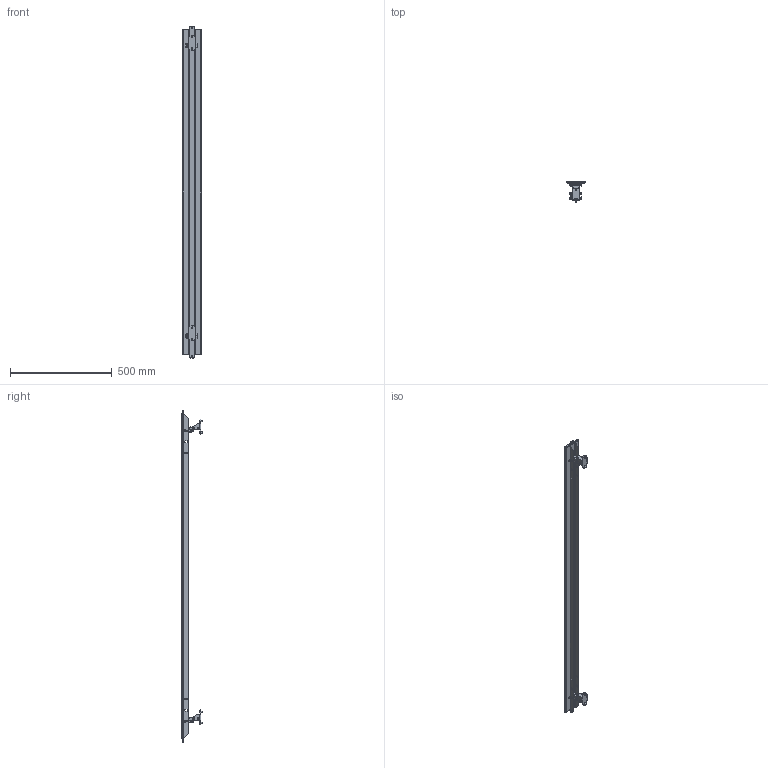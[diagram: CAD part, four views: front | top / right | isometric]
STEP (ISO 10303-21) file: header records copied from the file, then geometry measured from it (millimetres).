
FILE_DESCRIPTION((''),'2;1');
FILE_NAME('2009729_ASM','2012-08-09T',('rink'),(''),'PRO/ENGINEER BY PARAMETRIC TECHNOLOGY CORPORATION, 2011040','PRO/ENGINEER BY PARAMETRIC TECHNOLOGY CORPORATION, 2011040','');
FILE_SCHEMA(('AUTOMOTIVE_DESIGN_CC2 { 1 2 10303 214 -1 1 5 2 }'));
Length unit declared in the file: millimetre
Products named in the file (8): 2009713; 2009714; 2009715; 2009716_ASM; 2009377; 2009378; 2009379_ASM; 2009729_ASM
Assembly tree (8 placements, depth 3):
  2009729_ASM
    2009716_ASM
      2009713
      2009714
      2009715
    2009379_ASM  x2
      2009377
      2009378
Bounding box: 89 x 105.2 x 1630 mm (x, y, z)
Volume: 903453.8 mm3; surface area: 939863 mm2
Topology: 3 solids, 95 shells, 743 faces, 2057 edges, 1438 vertices
Faces by surface type: plane 415, cone 136, cylinder 120, extrusion 40, bspline 24, sphere 8
Entity records: 24123 total; most frequent: CARTESIAN_POINT 6170, DIRECTION 2283, ORIENTED_EDGE 2254, PRESENTATION_STYLE_ASSIGNMENT 1637, STYLED_ITEM 1353, CURVE_STYLE 1306, EDGE_CURVE 1238, VERTEX_POINT 826
